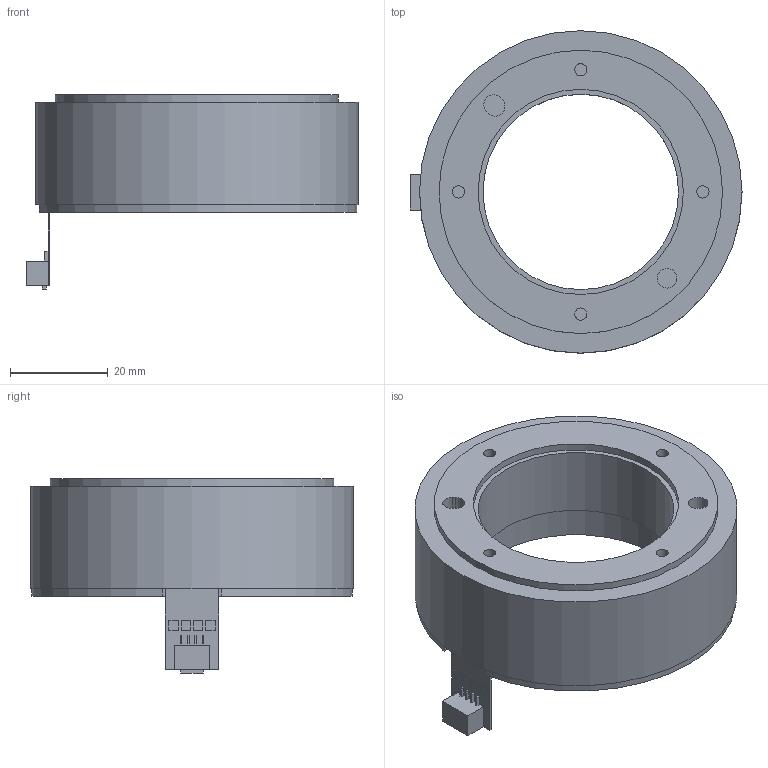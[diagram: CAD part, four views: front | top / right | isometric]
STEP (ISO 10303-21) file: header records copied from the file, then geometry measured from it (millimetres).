
FILE_DESCRIPTION(/* description */ (''),/* implementation_level */ '2;1');
FILE_NAME(/* name */ 'DM6624_01.stp',/* time_stamp */ '2020-03-11T14:28:21+01:00',/* author */ ('DR. FRITZ FAULHABER GmbH & Co. KG'),/* organization */ ('DR. FRITZ FAULHABER GmbH & Co. KG'),/* preprocessor_version */ 'ST-DEVELOPER v16.7',/* originating_system */ 'SIEMENS PLM Software NX 12.0',/* authorisation */ '');
FILE_SCHEMA (('AUTOMOTIVE_DESIGN { 1 0 10303 214 3 1 1 1 }'));
Length unit declared in the file: millimetre
Products named in the file (1): H00002345-A-6624.0H001
Bounding box: 67.94 x 66 x 39.76 mm (x, y, z)
Volume: 47799.6 mm3; surface area: 13260.7 mm2
Topology: 1 solids, 1 shells, 137 faces, 316 edges, 208 vertices
Faces by surface type: plane 117, cylinder 20
Full cylindrical faces by diameter (mm): 1.25 x6, 2.5 x4, 4 x1, 40 x1, 42 x1, 44 x1, 58 x2, 66 x1
Entity records: 3769 total; most frequent: CARTESIAN_POINT 645, DIRECTION 615, ORIENTED_EDGE 598, EDGE_CURVE 299, LINE 259, VECTOR 259, VERTEX_POINT 208, EDGE_LOOP 183
